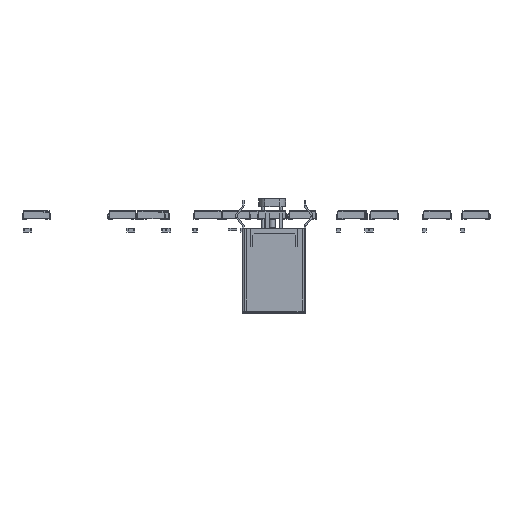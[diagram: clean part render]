
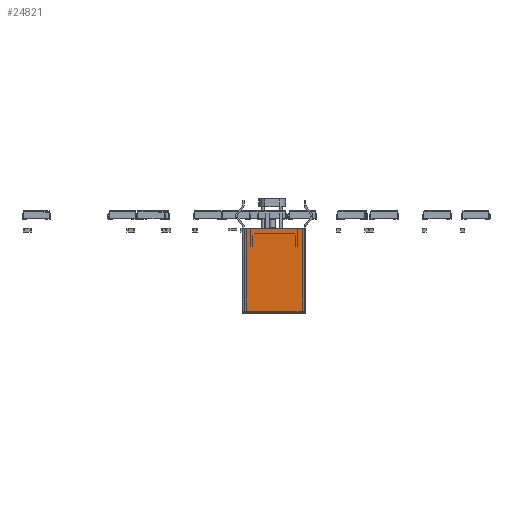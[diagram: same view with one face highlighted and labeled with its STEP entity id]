
A CAD part, front view. The second image highlights one B-rep face of the part: STEP entity #24821.
In plain terms, the highlighted planar face has unit normal (0, -1, 0) as drawn and (0, 0, -1) by its records, which use the part's own axes.
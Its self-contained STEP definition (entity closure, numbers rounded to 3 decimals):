
#9135 = CYLINDRICAL_SURFACE('',#9136,0.35);
#9136 = AXIS2_PLACEMENT_3D('',#9137,#9138,#9139);
#9137 = CARTESIAN_POINT('',(5.897,15.9,-4.95));
#9138 = DIRECTION('',(-1.,0.,0.));
#9139 = DIRECTION('',(0.,1.,0.));
#9845 = VERTEX_POINT('',#9846);
#9846 = CARTESIAN_POINT('',(5.67,15.9,-5.3));
#9873 = EDGE_CURVE('',#9845,#9874,#9876,.T.);
#9874 = VERTEX_POINT('',#9875);
#9875 = CARTESIAN_POINT('',(-5.67,15.9,-5.3));
#9876 = SURFACE_CURVE('',#9877,(#9881,#9888),.PCURVE_S1.);
#9877 = LINE('',#9878,#9879);
#9878 = CARTESIAN_POINT('',(5.67,15.9,-5.3));
#9879 = VECTOR('',#9880,1.);
#9880 = DIRECTION('',(-1.,0.,0.));
#9881 = PCURVE('',#9135,#9882);
#9882 = DEFINITIONAL_REPRESENTATION('',(#9883),#9887);
#9883 = LINE('',#9884,#9885);
#9884 = CARTESIAN_POINT('',(1.571,0.227));
#9885 = VECTOR('',#9886,1.);
#9886 = DIRECTION('',(0.,1.));
#9887 = ( GEOMETRIC_REPRESENTATION_CONTEXT(2) 
PARAMETRIC_REPRESENTATION_CONTEXT() REPRESENTATION_CONTEXT('2D SPACE',''
  ) );
#9888 = PCURVE('',#9889,#9894);
#9889 = PLANE('',#9890);
#9890 = AXIS2_PLACEMENT_3D('',#9891,#9892,#9893);
#9891 = CARTESIAN_POINT('',(0.,7.95,-5.3));
#9892 = DIRECTION('',(0.,0.,-1.));
#9893 = DIRECTION('',(-1.,0.,0.));
#9894 = DEFINITIONAL_REPRESENTATION('',(#9895),#9899);
#9895 = LINE('',#9896,#9897);
#9896 = CARTESIAN_POINT('',(-5.67,7.95));
#9897 = VECTOR('',#9898,1.);
#9898 = DIRECTION('',(1.,0.));
#9899 = ( GEOMETRIC_REPRESENTATION_CONTEXT(2) 
PARAMETRIC_REPRESENTATION_CONTEXT() REPRESENTATION_CONTEXT('2D SPACE',''
  ) );
#10895 = VERTEX_POINT('',#10896);
#10896 = CARTESIAN_POINT('',(5.67,0.,-5.3));
#10911 = CYLINDRICAL_SURFACE('',#10912,0.35);
#10912 = AXIS2_PLACEMENT_3D('',#10913,#10914,#10915);
#10913 = CARTESIAN_POINT('',(5.67,16.218,-4.95));
#10914 = DIRECTION('',(0.,-1.,0.));
#10915 = DIRECTION('',(0.,0.,-1.));
#10937 = PLANE('',#10938);
#10938 = AXIS2_PLACEMENT_3D('',#10939,#10940,#10941);
#10939 = CARTESIAN_POINT('',(0.,0.,-5.14));
#10940 = DIRECTION('',(0.,1.,0.));
#10941 = DIRECTION('',(-1.,0.,0.));
#10979 = EDGE_CURVE('',#10895,#9845,#10980,.T.);
#10980 = SURFACE_CURVE('',#10981,(#10985,#10992),.PCURVE_S1.);
#10981 = LINE('',#10982,#10983);
#10982 = CARTESIAN_POINT('',(5.67,0.,-5.3));
#10983 = VECTOR('',#10984,1.);
#10984 = DIRECTION('',(0.,1.,0.));
#10985 = PCURVE('',#10911,#10986);
#10986 = DEFINITIONAL_REPRESENTATION('',(#10987),#10991);
#10987 = LINE('',#10988,#10989);
#10988 = CARTESIAN_POINT('',(0.,16.218));
#10989 = VECTOR('',#10990,1.);
#10990 = DIRECTION('',(0.,-1.));
#10991 = ( GEOMETRIC_REPRESENTATION_CONTEXT(2) 
PARAMETRIC_REPRESENTATION_CONTEXT() REPRESENTATION_CONTEXT('2D SPACE',''
  ) );
#10992 = PCURVE('',#9889,#10993);
#10993 = DEFINITIONAL_REPRESENTATION('',(#10994),#10998);
#10994 = LINE('',#10995,#10996);
#10995 = CARTESIAN_POINT('',(-5.67,-7.95));
#10996 = VECTOR('',#10997,1.);
#10997 = DIRECTION('',(0.,1.));
#10998 = ( GEOMETRIC_REPRESENTATION_CONTEXT(2) 
PARAMETRIC_REPRESENTATION_CONTEXT() REPRESENTATION_CONTEXT('2D SPACE',''
  ) );
#24821 = ADVANCED_FACE('',(#24822),#9889,.T.);
#24822 = FACE_BOUND('',#24823,.T.);
#24823 = EDGE_LOOP('',(#24824,#24825,#24826,#24849));
#24824 = ORIENTED_EDGE('',*,*,#9873,.F.);
#24825 = ORIENTED_EDGE('',*,*,#10979,.F.);
#24826 = ORIENTED_EDGE('',*,*,#24827,.F.);
#24827 = EDGE_CURVE('',#24828,#10895,#24830,.T.);
#24828 = VERTEX_POINT('',#24829);
#24829 = CARTESIAN_POINT('',(-5.67,0.,-5.3));
#24830 = SURFACE_CURVE('',#24831,(#24835,#24842),.PCURVE_S1.);
#24831 = LINE('',#24832,#24833);
#24832 = CARTESIAN_POINT('',(-5.67,0.,-5.3));
#24833 = VECTOR('',#24834,1.);
#24834 = DIRECTION('',(1.,0.,0.));
#24835 = PCURVE('',#9889,#24836);
#24836 = DEFINITIONAL_REPRESENTATION('',(#24837),#24841);
#24837 = LINE('',#24838,#24839);
#24838 = CARTESIAN_POINT('',(5.67,-7.95));
#24839 = VECTOR('',#24840,1.);
#24840 = DIRECTION('',(-1.,0.));
#24841 = ( GEOMETRIC_REPRESENTATION_CONTEXT(2) 
PARAMETRIC_REPRESENTATION_CONTEXT() REPRESENTATION_CONTEXT('2D SPACE',''
  ) );
#24842 = PCURVE('',#10937,#24843);
#24843 = DEFINITIONAL_REPRESENTATION('',(#24844),#24848);
#24844 = LINE('',#24845,#24846);
#24845 = CARTESIAN_POINT('',(5.67,-0.16));
#24846 = VECTOR('',#24847,1.);
#24847 = DIRECTION('',(-1.,0.));
#24848 = ( GEOMETRIC_REPRESENTATION_CONTEXT(2) 
PARAMETRIC_REPRESENTATION_CONTEXT() REPRESENTATION_CONTEXT('2D SPACE',''
  ) );
#24849 = ORIENTED_EDGE('',*,*,#24850,.T.);
#24850 = EDGE_CURVE('',#24828,#9874,#24851,.T.);
#24851 = SURFACE_CURVE('',#24852,(#24856,#24863),.PCURVE_S1.);
#24852 = LINE('',#24853,#24854);
#24853 = CARTESIAN_POINT('',(-5.67,0.,-5.3));
#24854 = VECTOR('',#24855,1.);
#24855 = DIRECTION('',(0.,1.,0.));
#24856 = PCURVE('',#9889,#24857);
#24857 = DEFINITIONAL_REPRESENTATION('',(#24858),#24862);
#24858 = LINE('',#24859,#24860);
#24859 = CARTESIAN_POINT('',(5.67,-7.95));
#24860 = VECTOR('',#24861,1.);
#24861 = DIRECTION('',(0.,1.));
#24862 = ( GEOMETRIC_REPRESENTATION_CONTEXT(2) 
PARAMETRIC_REPRESENTATION_CONTEXT() REPRESENTATION_CONTEXT('2D SPACE',''
  ) );
#24863 = PCURVE('',#24864,#24869);
#24864 = CYLINDRICAL_SURFACE('',#24865,0.35);
#24865 = AXIS2_PLACEMENT_3D('',#24866,#24867,#24868);
#24866 = CARTESIAN_POINT('',(-5.67,16.218,-4.95));
#24867 = DIRECTION('',(0.,-1.,0.));
#24868 = DIRECTION('',(-1.,0.,0.));
#24869 = DEFINITIONAL_REPRESENTATION('',(#24870),#24874);
#24870 = LINE('',#24871,#24872);
#24871 = CARTESIAN_POINT('',(1.571,16.218));
#24872 = VECTOR('',#24873,1.);
#24873 = DIRECTION('',(0.,-1.));
#24874 = ( GEOMETRIC_REPRESENTATION_CONTEXT(2) 
PARAMETRIC_REPRESENTATION_CONTEXT() REPRESENTATION_CONTEXT('2D SPACE',''
  ) );
